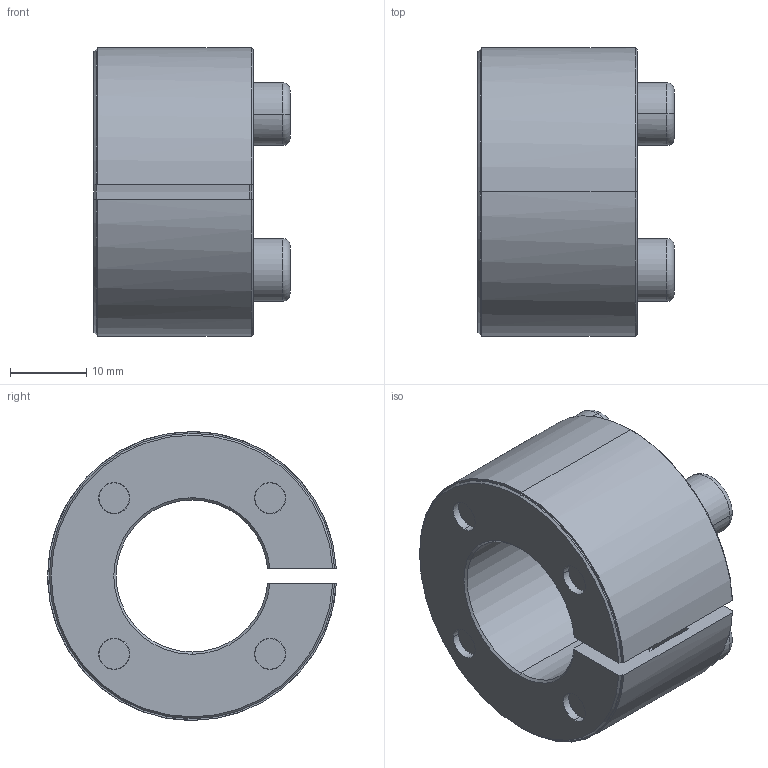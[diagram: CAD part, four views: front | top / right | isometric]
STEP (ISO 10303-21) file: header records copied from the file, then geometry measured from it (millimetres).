
FILE_DESCRIPTION (( 'STEP AP214' ), '1' );
FILE_NAME ('SAPL-E-20-38.STEP', '2024-07-12T02:11:41', ( '决扁浅何厘' ), ( '' ), 'SwSTEP 2.0', 'SolidWorks 2024', '' );
FILE_SCHEMA (( 'AUTOMOTIVE_DESIGN' ));
Length unit declared in the file: millimetre
Products named in the file (1): SAPL-E-20-38
Bounding box: 25.81 x 37.97 x 38 mm (x, y, z)
Volume: 14109.2 mm3; surface area: 9953.3 mm2
Topology: 1 solids, 1 shells, 143 faces, 349 edges, 220 vertices
Faces by surface type: plane 52, cylinder 48, cone 35, torus 8
Entity records: 4364 total; most frequent: CARTESIAN_POINT 855, DIRECTION 776, ORIENTED_EDGE 698, EDGE_CURVE 349, AXIS2_PLACEMENT_3D 310, VERTEX_POINT 220, EDGE_LOOP 169, CIRCLE 166
